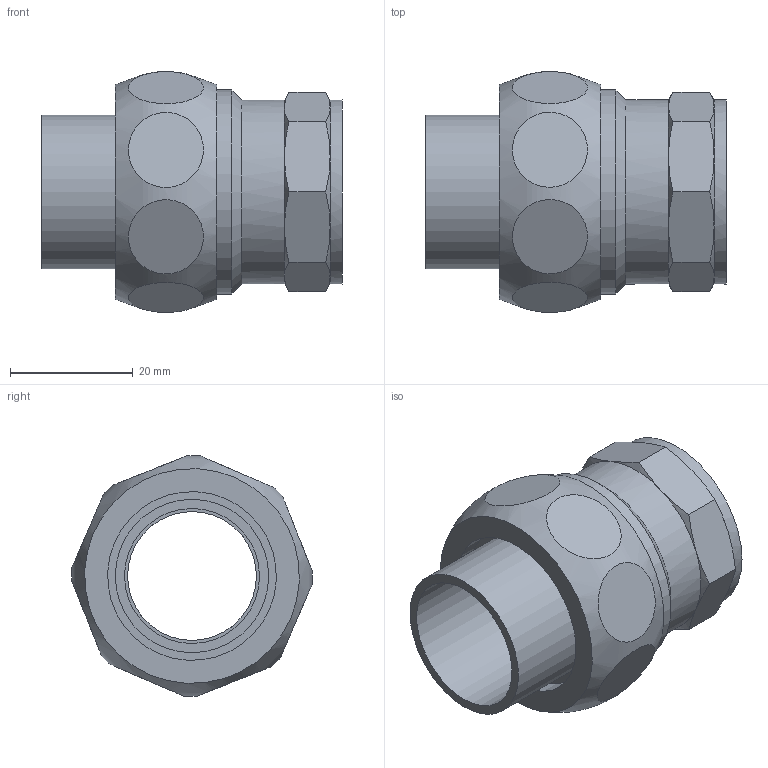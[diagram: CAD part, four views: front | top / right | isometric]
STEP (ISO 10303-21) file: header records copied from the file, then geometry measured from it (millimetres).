
FILE_DESCRIPTION((''),'2;1');
FILE_NAME('G:\Engineering\Public\RYSUNKI\SANHA POLSKA\4330g\step\14330g_22-34(1).stp','2013-09-25T13:45:00',('haldrzynski'),(''),'Autodesk Inventor 2009','Autodesk Inventor 2009','');
FILE_SCHEMA(('AUTOMOTIVE_DESIGN { 1 0 10303 214 1 1 1 1 }'));
Length unit declared in the file: millimetre
Products named in the file (5): 14330g_22-34(1); 14370g-34_1(1); 14372_22-1(1); 14374_1; 1DCU1
Assembly tree (4 placements, depth 2):
  14330g_22-34(1)
    14370g-34_1(1)
    14372_22-1(1)
    14374_1
    1DCU1
Bounding box: 49 x 39.27 x 39.27 mm (x, y, z)
Volume: 19503.6 mm3; surface area: 14398.7 mm2
Topology: 4 solids, 4 shells, 62 faces, 116 edges, 73 vertices
Faces by surface type: plane 28, cone 20, cylinder 13, bspline 1
Full cylindrical faces by diameter (mm): 21 x2, 22 x2, 24.12 x1, 25 x1, 27.5 x1, 29.5 x1, 30 x3, 30.291 x1, 33.249 x1
Entity records: 2780 total; most frequent: CARTESIAN_POINT 1547, DIRECTION 238, ORIENTED_EDGE 186, AXIS2_PLACEMENT_3D 115, EDGE_LOOP 100, EDGE_CURVE 93, VERTEX_POINT 69, FACE_OUTER_BOUND 62
